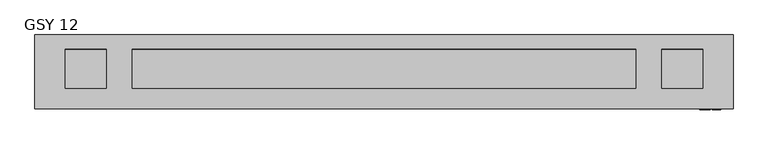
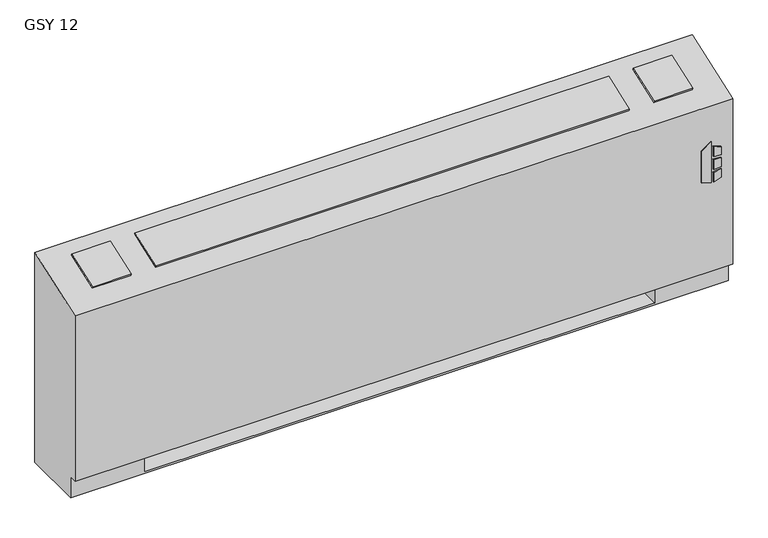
"""IFC4 building model written with IfcOpenShell, lengths in millimetres: proxy geometry, Vertical_Fan_Coil_Unit_-_GSY_-_IEC_-_2-Pipe_TS-FR_RH_2022 : GSY 12."""

from ifc_helpers import new_model, si_unit, point, frame, frame_2d, origin, place, context, project, spatial, polyline, circle_curve, trimmed, segment, composite_curve, outline, extrude, source, transform, mapped, element, save
from ifc_brep_helpers import plane_surface, revolved_surface, advanced_brep


def gsy_12_80c8aa1c(model_context):
    return source(origin(), model_context, "Body", "SolidModel", [
        extrude(outline(polyline([(391.6086829, 1128.7868862), (381.6606126, 1160.9602728), (523.831537, 1160.9602728), (500.8095309, 1128.7868862), (391.6086829, 1128.7868862)])), frame((0.0, 12.7, 0.0), z_axis=(0.0, 1.0, 0.0), x_axis=(0.0, 0.0, 1.0)), (0.0, 0.0, 1.0), 3.175),
        extrude(outline(polyline([(470.6079683, 1167.7186058), (467.4055757, 1193.8), (496.6344168, 1193.8), (504.6988318, 1167.7186058), (470.6079683, 1167.7186058)])), frame((0.0, 12.7, 0.0), z_axis=(0.0, 1.0, 0.0), x_axis=(0.0, 0.0, 1.0)), (0.0, 0.0, 1.0), 3.175),
        extrude(outline(polyline([(418.7444414, 1193.8), (415.0789404, 1167.7186058), (381.6606126, 1167.7186058), (390.2948498, 1193.8), (418.7444414, 1193.8)])), frame((0.0, 12.7, 0.0), z_axis=(0.0, 1.0, 0.0), x_axis=(0.0, 0.0, 1.0)), (0.0, 0.0, 1.0), 3.175),
        extrude(outline(polyline([(458.0596028, 1193.8), (460.3414292, 1167.7186058), (424.4038806, 1167.7186058), (427.1451456, 1193.8), (458.0596028, 1193.8)])), frame((0.0, 12.7, 0.0), z_axis=(0.0, 1.0, 0.0), x_axis=(0.0, 0.0, 1.0)), (0.0, 0.0, 1.0), 3.175),
        extrude(outline(polyline([(0.0, -126.2347031), (0.0, 0.0), (127.0, 0.0), (127.0, -126.2347031), (0.0, -126.2347031)])), frame((-832.993, 200.4217127, 714.3418685), z_axis=(0.0, -0.33964446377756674, 0.9405538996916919), x_axis=(1.0, 0.0, 0.0)), (0.0, 0.0, 1.0), 6.35),
        extrude(outline(polyline([(0.0, -126.2347031), (0.0, 0.0), (1555.75, 0.0), (1555.75, -126.2347031), (0.0, -126.2347031)])), frame((930.275, 81.6911704, 671.4669504), z_axis=(0.0, -0.3396444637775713, 0.9405538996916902), x_axis=(-1.0, 0.0, 0.0)), (0.0, 0.0, 1.0), 6.35),
        extrude(outline(polyline([(0.0, -126.2347031), (0.0, 0.0), (127.0, 0.0), (127.0, -126.2347031), (0.0, -126.2347031)])), frame((1137.793, 81.6911704, 671.4669504), z_axis=(0.0, -0.3396444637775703, 0.9405538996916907), x_axis=(-1.0, 0.0, 0.0)), (0.0, 0.0, 1.0), 6.35),
        extrude(outline(polyline([(-806.45, 81.534), (-806.45, 223.266), (-127.0, 223.266), (-127.0, 81.534), (-806.45, 81.534)])), frame((0.0, 0.0, 327.025), z_axis=(0.0, 0.0, 1.0), x_axis=(1.0, 0.0, 0.0)), (0.0, 0.0, 1.0), 260.35),
        extrude(outline(composite_curve([segment(trimmed(circle_curve(frame_2d((80.645, 397.002)), 7.9375), [point((80.645, 404.9395))], [point((80.645, 389.0645))], False, "CARTESIAN"), True, "CONTINUOUS"), segment(trimmed(circle_curve(frame_2d((80.645, 397.002)), 7.9375), [point((80.645, 389.0645))], [point((80.645, 404.9395))], False, "CARTESIAN"), True, "CONTINUOUS")], self_intersect=False)), frame((990.6, 0.0, 0.0), z_axis=(1.0, 0.0, 0.0), x_axis=(0.0, 1.0, 0.0)), (0.0, 0.0, 1.0), 50.8),
        extrude(outline(composite_curve([segment(trimmed(circle_curve(frame_2d((156.8958, 535.8892)), 7.9375), [point((156.8958, 543.8267))], [point((156.8958, 527.9517))], False, "CARTESIAN"), True, "CONTINUOUS"), segment(trimmed(circle_curve(frame_2d((156.8958, 535.8892)), 7.9375), [point((156.8958, 527.9517))], [point((156.8958, 543.8267))], False, "CARTESIAN"), True, "CONTINUOUS")], self_intersect=False)), frame((990.6, 0.0, 0.0), z_axis=(1.0, 0.0, 0.0), x_axis=(0.0, 1.0, 0.0)), (0.0, 0.0, 1.0), 50.8),
        advanced_brep(
        [(-927.1, 244.475, 0.0), (1231.9, 244.475, 0.0), (1231.9, 41.275, 0.0), (-927.1, 41.275, 0.0), (-927.1, 244.475, 730.25), (1231.9, 244.475, 730.25), (990.6, 244.475, 73.025), (1219.2, 244.475, 73.025), (1219.2, 244.475, 654.05), (990.6, 244.475, 654.05), (990.6, 244.475, 414.8650565), (1019.175, 244.475, 414.8650565), (1019.175, 244.475, 385.2349435), (990.6, 244.475, 385.2349435), (990.6, 244.475, 287.3375), (1019.175, 244.475, 287.3375), (1019.175, 244.475, 258.7625), (990.6, 244.475, 258.7625), (990.6, 244.475, 141.2875), (1019.175, 244.475, 141.2875), (1019.175, 244.475, 112.7125), (990.6, 244.475, 112.7125), (-685.8, 244.475, 654.05), (-914.4, 244.475, 654.05), (-914.4, 244.475, 73.025), (-685.8, 244.475, 73.025), (-685.8, 244.475, 112.7125), (-714.375, 244.475, 112.7125), (-714.375, 244.475, 141.2875), (-685.8, 244.475, 141.2875), (-685.8, 244.475, 258.7625), (-714.375, 244.475, 258.7625), (-714.375, 244.475, 287.3375), (-685.8, 244.475, 287.3375), (-685.8, 244.475, 385.2349435), (-714.375, 244.475, 385.2349435), (-714.375, 244.475, 414.8650565), (-685.8, 244.475, 414.8650565), (1008.8626, 244.475, 127.0), (997.7374, 244.475, 127.0), (1008.8626, 244.475, 400.05), (997.7374, 244.475, 400.05), (1008.8626, 244.475, 273.05), (997.7374, 244.475, 273.05), (-692.9374, 244.475, 127.0), (-704.0626, 244.475, 127.0), (-692.9374, 244.475, 273.05), (-704.0626, 244.475, 273.05), (-692.9374, 244.475, 400.05), (-704.0626, 244.475, 400.05), (-927.1, 41.275, 73.025), (-927.1, 15.875, 73.025), (-927.1, 15.875, 647.7), (1231.9, 15.875, 73.025), (1231.9, 15.875, 647.7), (1231.9, 41.275, 73.025), (-685.8, 41.275, 73.025), (-685.8, 225.425, 73.025), (990.6, 225.425, 73.025), (990.6, 41.275, 73.025), (990.6, 41.275, 6.35), (-685.8, 41.275, 6.35), (990.6, 41.275, 654.05), (1219.2, 41.275, 654.05), (1219.2, 41.275, 73.025), (990.6, 41.275, 73.025), (-685.8, 41.275, 654.05), (-685.8, 41.275, 73.025), (-914.4, 41.275, 73.025), (-914.4, 41.275, 654.05), (990.6, 225.425, 73.025), (990.6, 238.125, 112.7125), (990.6, 238.125, 141.2875), (990.6, 238.125, 258.7625), (990.6, 238.125, 287.3375), (990.6, 238.125, 385.2349435), (990.6, 238.125, 414.8650565), (-685.8, 225.425, 73.025), (-685.8, 238.125, 414.8650565), (-685.8, 238.125, 385.2349435), (-685.8, 238.125, 287.3375), (-685.8, 238.125, 258.7625), (-685.8, 238.125, 141.2875), (-685.8, 238.125, 112.7125), (-685.8, 225.425, 6.35), (990.6, 225.425, 6.35), (1019.175, 238.125, 112.7125), (1019.175, 238.125, 141.2875), (997.7374, 238.125, 127.0), (1008.8626, 238.125, 127.0), (1019.175, 238.125, 258.7625), (1019.175, 238.125, 287.3375), (997.7374, 238.125, 273.05), (1008.8626, 238.125, 273.05), (1019.175, 238.125, 385.2349435), (1019.175, 238.125, 414.8650565), (997.7374, 238.125, 400.05), (1008.8626, 238.125, 400.05), (-714.375, 238.125, 141.2875), (-714.375, 238.125, 112.7125), (-704.0626, 238.125, 127.0), (-692.9374, 238.125, 127.0), (-714.375, 238.125, 287.3375), (-714.375, 238.125, 258.7625), (-704.0626, 238.125, 273.05), (-692.9374, 238.125, 273.05), (-714.375, 238.125, 414.8650565), (-714.375, 238.125, 385.2349435), (-704.0626, 238.125, 400.05), (-692.9374, 238.125, 400.05)],
        [
            (0, 1),
            (1, 2),
            (2, 3),
            (3, 0),
            (0, 4),
            (4, 5),
            (5, 1),
            (6, 7),
            (7, 8),
            (8, 9),
            (9, 10),
            (10, 11),
            (11, 12),
            (12, 13),
            (13, 14),
            (14, 15),
            (15, 16),
            (16, 17),
            (17, 18),
            (18, 19),
            (19, 20),
            (20, 21),
            (21, 6),
            (22, 23),
            (23, 24),
            (24, 25),
            (25, 26),
            (26, 27),
            (27, 28),
            (28, 29),
            (29, 30),
            (30, 31),
            (31, 32),
            (32, 33),
            (33, 34),
            (34, 35),
            (35, 36),
            (36, 37),
            (37, 22),
            (38, 39, circle_curve(frame((1003.3, 244.475, 127.0), z_axis=(0.0, -1.0, 0.0), x_axis=(-1.0, 0.0, 0.0)), 5.5626)),
            (39, 38, circle_curve(frame((1003.3, 244.475, 127.0), z_axis=(0.0, -1.0, 0.0), x_axis=(-1.0, 0.0, 0.0)), 5.5626)),
            (40, 41, circle_curve(frame((1003.3, 244.475, 400.05), z_axis=(0.0, -1.0, 0.0), x_axis=(-1.0, 0.0, 0.0)), 5.5626)),
            (41, 40, circle_curve(frame((1003.3, 244.475, 400.05), z_axis=(0.0, -1.0, 0.0), x_axis=(-1.0, 0.0, 0.0)), 5.5626)),
            (42, 43, circle_curve(frame((1003.3, 244.475, 273.05), z_axis=(0.0, -1.0, 0.0), x_axis=(-1.0, 0.0, 0.0)), 5.5626)),
            (43, 42, circle_curve(frame((1003.3, 244.475, 273.05), z_axis=(0.0, -1.0, 0.0), x_axis=(-1.0, 0.0, 0.0)), 5.5626)),
            (44, 45, circle_curve(frame((-698.5, 244.475, 127.0), z_axis=(0.0, -1.0, 0.0), x_axis=(-1.0, 0.0, 0.0)), 5.5626)),
            (45, 44, circle_curve(frame((-698.5, 244.475, 127.0), z_axis=(0.0, -1.0, 0.0), x_axis=(-1.0, 0.0, 0.0)), 5.5626)),
            (46, 47, circle_curve(frame((-698.5, 244.475, 273.05), z_axis=(0.0, -1.0, 0.0), x_axis=(-1.0, 0.0, 0.0)), 5.5626)),
            (47, 46, circle_curve(frame((-698.5, 244.475, 273.05), z_axis=(0.0, -1.0, 0.0), x_axis=(-1.0, 0.0, 0.0)), 5.5626)),
            (48, 49, circle_curve(frame((-698.5, 244.475, 400.05), z_axis=(0.0, -1.0, 0.0), x_axis=(-1.0, 0.0, 0.0)), 5.5626)),
            (49, 48, circle_curve(frame((-698.5, 244.475, 400.05), z_axis=(0.0, -1.0, 0.0), x_axis=(-1.0, 0.0, 0.0)), 5.5626)),
            (3, 50),
            (50, 51),
            (51, 52),
            (52, 4),
            (51, 53),
            (53, 54),
            (54, 52),
            (5, 54),
            (53, 55),
            (55, 2),
            (50, 56),
            (56, 57),
            (57, 58),
            (58, 59),
            (59, 55),
            (59, 60),
            (60, 61),
            (61, 56),
            (62, 63),
            (63, 64),
            (64, 65),
            (65, 62),
            (66, 67),
            (67, 68),
            (68, 69),
            (69, 66),
            (65, 70),
            (70, 6),
            (21, 71),
            (71, 72),
            (72, 18),
            (17, 73),
            (73, 74),
            (74, 14),
            (13, 75),
            (75, 76),
            (76, 10),
            (9, 62),
            (64, 7),
            (63, 8),
            (69, 23),
            (22, 66),
            (68, 24),
            (67, 77),
            (77, 25),
            (37, 78),
            (78, 79),
            (79, 34),
            (33, 80),
            (80, 81),
            (81, 30),
            (29, 82),
            (82, 83),
            (83, 26),
            (57, 84),
            (84, 85),
            (85, 58),
            (85, 60),
            (84, 61),
            (71, 86),
            (86, 87),
            (87, 72),
            (88, 89, circle_curve(frame((1003.3, 238.125, 127.0), z_axis=(0.0, 1.0, 0.0), x_axis=(-1.0, 0.0, 0.0)), 5.5626)),
            (89, 88, circle_curve(frame((1003.3, 238.125, 127.0), z_axis=(0.0, 1.0, 0.0), x_axis=(-1.0, 0.0, 0.0)), 5.5626)),
            (73, 90),
            (90, 91),
            (91, 74),
            (92, 93, circle_curve(frame((1003.3, 238.125, 273.05), z_axis=(0.0, 1.0, 0.0), x_axis=(-1.0, 0.0, 0.0)), 5.5626)),
            (93, 92, circle_curve(frame((1003.3, 238.125, 273.05), z_axis=(0.0, 1.0, 0.0), x_axis=(-1.0, 0.0, 0.0)), 5.5626)),
            (75, 94),
            (94, 95),
            (95, 76),
            (96, 97, circle_curve(frame((1003.3, 238.125, 400.05), z_axis=(0.0, 1.0, 0.0), x_axis=(-1.0, 0.0, 0.0)), 5.5626)),
            (97, 96, circle_curve(frame((1003.3, 238.125, 400.05), z_axis=(0.0, 1.0, 0.0), x_axis=(-1.0, 0.0, 0.0)), 5.5626)),
            (98, 99),
            (99, 83),
            (82, 98),
            (100, 101, circle_curve(frame((-698.5, 238.125, 127.0), z_axis=(0.0, 1.0, 0.0), x_axis=(-1.0, 0.0, 0.0)), 5.5626)),
            (101, 100, circle_curve(frame((-698.5, 238.125, 127.0), z_axis=(0.0, 1.0, 0.0), x_axis=(-1.0, 0.0, 0.0)), 5.5626)),
            (102, 103),
            (103, 81),
            (80, 102),
            (104, 105, circle_curve(frame((-698.5, 238.125, 273.05), z_axis=(0.0, 1.0, 0.0), x_axis=(-1.0, 0.0, 0.0)), 5.5626)),
            (105, 104, circle_curve(frame((-698.5, 238.125, 273.05), z_axis=(0.0, 1.0, 0.0), x_axis=(-1.0, 0.0, 0.0)), 5.5626)),
            (106, 107),
            (107, 79),
            (78, 106),
            (108, 109, circle_curve(frame((-698.5, 238.125, 400.05), z_axis=(0.0, 1.0, 0.0), x_axis=(-1.0, 0.0, 0.0)), 5.5626)),
            (109, 108, circle_curve(frame((-698.5, 238.125, 400.05), z_axis=(0.0, 1.0, 0.0), x_axis=(-1.0, 0.0, 0.0)), 5.5626)),
            (87, 19),
            (86, 20),
            (91, 15),
            (90, 16),
            (95, 11),
            (94, 12),
            (28, 98),
            (99, 27),
            (32, 102),
            (103, 31),
            (36, 106),
            (107, 35),
            (88, 39),
            (38, 89),
            (96, 41),
            (40, 97),
            (92, 43),
            (42, 93),
            (100, 45),
            (44, 101),
            (104, 47),
            (46, 105),
            (108, 49),
            (48, 109),
        ],
        [
            plane_surface(frame((-927.1, 244.475, 0.0), z_axis=(0.0, 0.0, -1.0), x_axis=(1.0, 0.0, 0.0))),
            plane_surface(frame((1231.9, 244.475, 730.25), z_axis=(0.0, 1.0, 0.0), x_axis=(0.0, 0.0, -1.0))),
            plane_surface(frame((-927.1, 244.475, 730.25), z_axis=(-1.0, 0.0, 0.0), x_axis=(0.0, 0.0, -1.0))),
            plane_surface(frame((-927.1, 15.875, 730.25), z_axis=(0.0, -1.0, 0.0), x_axis=(0.0, 0.0, -1.0))),
            plane_surface(frame((1231.9, 15.875, 730.25), z_axis=(1.0, 0.0, 0.0), x_axis=(0.0, 0.0, -1.0))),
            plane_surface(frame((-927.1, 15.875, 73.025), z_axis=(0.0, 0.0, -1.0), x_axis=(1.0, 0.0, 0.0))),
            plane_surface(frame((-927.1, 41.275, 73.025), z_axis=(0.0, -1.0, 0.0), x_axis=(1.0, 0.0, 0.0))),
            plane_surface(frame((990.6, 41.275, 654.05), z_axis=(0.0, 1.0, 0.0), x_axis=(0.0, 0.0, -1.0))),
            plane_surface(frame((990.6, 41.275, 654.05), z_axis=(1.0, 0.0, 0.0), x_axis=(0.0, 1.0, 0.0))),
            plane_surface(frame((990.6, 41.275, 73.025), z_axis=(0.0, 0.0, 1.0), x_axis=(0.0, 1.0, 0.0))),
            plane_surface(frame((1219.2, 41.275, 73.025), z_axis=(-1.0, 0.0, 0.0), x_axis=(0.0, 1.0, 0.0))),
            plane_surface(frame((1219.2, 41.275, 654.05), z_axis=(0.0, 0.0, -1.0), x_axis=(0.0, 1.0, 0.0))),
            plane_surface(frame((-685.8, 41.275, 654.05), z_axis=(0.0, 0.0, -1.0), x_axis=(0.0, 1.0, 0.0))),
            plane_surface(frame((-914.4, 41.275, 654.05), z_axis=(1.0, 0.0, 0.0), x_axis=(0.0, 1.0, 0.0))),
            plane_surface(frame((-914.4, 41.275, 73.025), z_axis=(0.0, 0.0, 1.0), x_axis=(0.0, 1.0, 0.0))),
            plane_surface(frame((-685.8, 41.275, 73.025), z_axis=(-1.0, 0.0, 0.0), x_axis=(0.0, 1.0, 0.0))),
            plane_surface(frame((990.6, 225.425, 73.025), z_axis=(0.0, -1.0, 0.0), x_axis=(0.0, 0.0, -1.0))),
            plane_surface(frame((990.6, 225.425, 73.025), z_axis=(-1.0, 0.0, 0.0), x_axis=(0.0, -1.0, 0.0))),
            plane_surface(frame((990.6, 225.425, 6.35), z_axis=(0.0, 0.0, 1.0), x_axis=(0.0, -1.0, 0.0))),
            plane_surface(frame((-685.8, 225.425, 6.35), z_axis=(1.0, 0.0, 0.0), x_axis=(0.0, -1.0, 0.0))),
            plane_surface(frame((1019.175, 238.125, 141.2875), z_axis=(0.0, -1.0, 0.0), x_axis=(-1.0, 0.0, 0.0))),
            plane_surface(frame((990.6, 244.475, 141.2875), z_axis=(0.0, 0.0, 1.0), x_axis=(0.0, -1.0, 0.0))),
            plane_surface(frame((1019.175, 244.475, 141.2875), z_axis=(1.0, 0.0, 0.0), x_axis=(0.0, -1.0, 0.0))),
            plane_surface(frame((1019.175, 244.475, 112.7125), z_axis=(0.0, 0.0, -1.0), x_axis=(0.0, -1.0, 0.0))),
            plane_surface(frame((990.6, 244.475, 287.3375), z_axis=(0.0, 0.0, 1.0), x_axis=(0.0, -1.0, 0.0))),
            plane_surface(frame((1019.175, 244.475, 287.3375), z_axis=(1.0, 0.0, 0.0), x_axis=(0.0, -1.0, 0.0))),
            plane_surface(frame((1019.175, 244.475, 258.7625), z_axis=(0.0, 0.0, -1.0), x_axis=(0.0, -1.0, 0.0))),
            plane_surface(frame((990.6, 244.475, 414.8650565), z_axis=(0.0, 0.0, 1.0), x_axis=(0.0, -1.0, 0.0))),
            plane_surface(frame((1019.175, 244.475, 414.8650565), z_axis=(1.0, 0.0, 0.0), x_axis=(0.0, -1.0, 0.0))),
            plane_surface(frame((1019.175, 244.475, 385.2349435), z_axis=(0.0, 0.0, -1.0), x_axis=(0.0, -1.0, 0.0))),
            plane_surface(frame((-714.375, 244.475, 141.2875), z_axis=(0.0, 0.0, 1.0), x_axis=(0.0, -1.0, 0.0))),
            plane_surface(frame((-685.8, 244.475, 112.7125), z_axis=(0.0, 0.0, -1.0), x_axis=(0.0, -1.0, 0.0))),
            plane_surface(frame((-714.375, 244.475, 112.7125), z_axis=(-1.0, 0.0, 0.0), x_axis=(0.0, -1.0, 0.0))),
            plane_surface(frame((-714.375, 244.475, 287.3375), z_axis=(0.0, 0.0, 1.0), x_axis=(0.0, -1.0, 0.0))),
            plane_surface(frame((-685.8, 244.475, 258.7625), z_axis=(0.0, 0.0, -1.0), x_axis=(0.0, -1.0, 0.0))),
            plane_surface(frame((-714.375, 244.475, 258.7625), z_axis=(-1.0, 0.0, 0.0), x_axis=(0.0, -1.0, 0.0))),
            plane_surface(frame((-714.375, 244.475, 414.8650565), z_axis=(0.0, 0.0, 1.0), x_axis=(0.0, -1.0, 0.0))),
            plane_surface(frame((-685.8, 244.475, 385.2349435), z_axis=(0.0, 0.0, -1.0), x_axis=(0.0, -1.0, 0.0))),
            plane_surface(frame((-714.375, 244.475, 385.2349435), z_axis=(-1.0, 0.0, 0.0), x_axis=(0.0, -1.0, 0.0))),
            revolved_surface(polyline([(997.7374, 238.125, 127.0), (997.7374, 244.475, 127.0)]), (1003.3, 244.475, 127.0), (0.0, -1.0, 0.0)),
            revolved_surface(polyline([(997.7374, 238.125, 400.05), (997.7374, 244.475, 400.05)]), (1003.3, 244.475, 400.05), (0.0, -1.0, 0.0)),
            revolved_surface(polyline([(997.7374, 238.125, 273.05), (997.7374, 244.475, 273.05)]), (1003.3, 244.475, 273.05), (0.0, -1.0, 0.0)),
            revolved_surface(polyline([(-704.0626, 238.125, 127.0), (-704.0626, 244.475, 127.0)]), (-698.5, 244.475, 127.0), (0.0, -1.0, 0.0)),
            revolved_surface(polyline([(-704.0626, 238.125, 273.05), (-704.0626, 244.475, 273.05)]), (-698.5, 244.475, 273.05), (0.0, -1.0, 0.0)),
            revolved_surface(polyline([(-704.0626, 238.125, 400.05), (-704.0626, 244.475, 400.05)]), (-698.5, 244.475, 400.05), (0.0, -1.0, 0.0)),
            plane_surface(frame((-927.1, 244.475, 730.25), z_axis=(0.0, -0.33964446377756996, 0.9405538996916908), x_axis=(1.0, 0.0, 0.0))),
        ],
        [
            (0, [[1, 2, 3, 4]]),
            (1, [[-1, 5, 6, 7], [8, 9, 10, 11, 12, 13, 14, 15, 16, 17, 18, 19, 20, 21, 22, 23], [24, 25, 26, 27, 28, 29, 30, 31, 32, 33, 34, 35, 36, 37, 38, 39], [40, 41], [42, 43], [44, 45], [46, 47], [48, 49], [50, 51]]),
            (2, [[-5, -4, 52, 53, 54, 55]]),
            (3, [[56, 57, 58, -54]]),
            (4, [[-7, 59, -57, 60, 61, -2]]),
            (5, [[-53, 62, 63, 64, 65, 66, -60, -56]]),
            (6, [[-3, -61, -66, 67, 68, 69, -62, -52]]),
            (7, [[70, 71, 72, 73]]),
            (7, [[74, 75, 76, 77]]),
            (8, [[-73, 78, 79, -23, 80, 81, 82, -19, 83, 84, 85, -15, 86, 87, 88, -11, 89]]),
            (9, [[-72, 90, -8, -79, -78]]),
            (10, [[-71, 91, -9, -90]]),
            (11, [[-70, -89, -10, -91]]),
            (12, [[-77, 92, -24, 93]]),
            (13, [[-76, 94, -25, -92]]),
            (14, [[-75, 95, 96, -26, -94]]),
            (15, [[-74, -93, -39, 97, 98, 99, -35, 100, 101, 102, -31, 103, 104, 105, -27, -96, -95]]),
            (16, [[-64, 106, 107, 108]]),
            (17, [[-108, 109, -67, -65]]),
            (18, [[-107, 110, -68, -109]]),
            (19, [[-106, -63, -69, -110]]),
            (20, [[111, 112, 113, -81], [114, 115]]),
            (20, [[116, 117, 118, -84], [119, 120]]),
            (20, [[121, 122, 123, -87], [124, 125]]),
            (20, [[126, 127, -104, 128], [129, 130]]),
            (20, [[131, 132, -101, 133], [134, 135]]),
            (20, [[136, 137, -98, 138], [139, 140]]),
            (21, [[-113, 141, -20, -82]]),
            (22, [[-112, 142, -21, -141]]),
            (23, [[-111, -80, -22, -142]]),
            (24, [[-118, 143, -16, -85]]),
            (25, [[-117, 144, -17, -143]]),
            (26, [[-116, -83, -18, -144]]),
            (27, [[-123, 145, -12, -88]]),
            (28, [[-122, 146, -13, -145]]),
            (29, [[-121, -86, -14, -146]]),
            (30, [[-128, -103, -30, 147]]),
            (31, [[-127, 148, -28, -105]]),
            (32, [[-126, -147, -29, -148]]),
            (33, [[-133, -100, -34, 149]]),
            (34, [[-132, 150, -32, -102]]),
            (35, [[-131, -149, -33, -150]]),
            (36, [[-138, -97, -38, 151]]),
            (37, [[-137, 152, -36, -99]]),
            (38, [[-136, -151, -37, -152]]),
            (39, [[153, -40, 154, -114]]),
            (39, [[-153, -115, -154, -41]]),
            (40, [[155, -42, 156, -124]]),
            (40, [[-155, -125, -156, -43]]),
            (41, [[157, -44, 158, -119]]),
            (41, [[-157, -120, -158, -45]]),
            (42, [[159, -46, 160, -129]]),
            (42, [[-159, -130, -160, -47]]),
            (43, [[161, -48, 162, -134]]),
            (43, [[-161, -135, -162, -49]]),
            (44, [[163, -50, 164, -139]]),
            (44, [[-163, -140, -164, -51]]),
            (45, [[-6, -55, -58, -59]]),
        ],
    ),
    ])


if __name__ == "__main__":
    model = new_model("IFC4")
    model_context = context("Model", 3, world=origin())
    ifc_project = project(units=[si_unit("LENGTHUNIT", "METRE", prefix="MILLI")], contexts=[model_context])
    site = spatial("IfcSite", under=ifc_project)
    building = spatial("IfcBuilding", under=site)
    placement = place(None, origin())
    gsy_12_shape = gsy_12_80c8aa1c(model_context)
    element("IfcBuildingElementProxy", 1, Name="Vertical_Fan_Coil_Unit_-_GSY_-_IEC_-_2-Pipe_TS-FR_RH_2022 : GSY 12", ObjectType="Vertical_Fan_Coil_Unit_-_GSY_-_IEC_-_2-Pipe_TS-FR_RH_2022 : GSY 12", at=placement, inside=building, context=model_context, shape_type="MappedRepresentation", body=[
        mapped(gsy_12_shape, transform((0.0, 0.0, 0.0), x_axis=(1.0, 0.0, 0.0), y_axis=(0.0, 1.0, 0.0), z_axis=(0.0, 0.0, 1.0))),
    ])
    save(model, "model.ifc")
